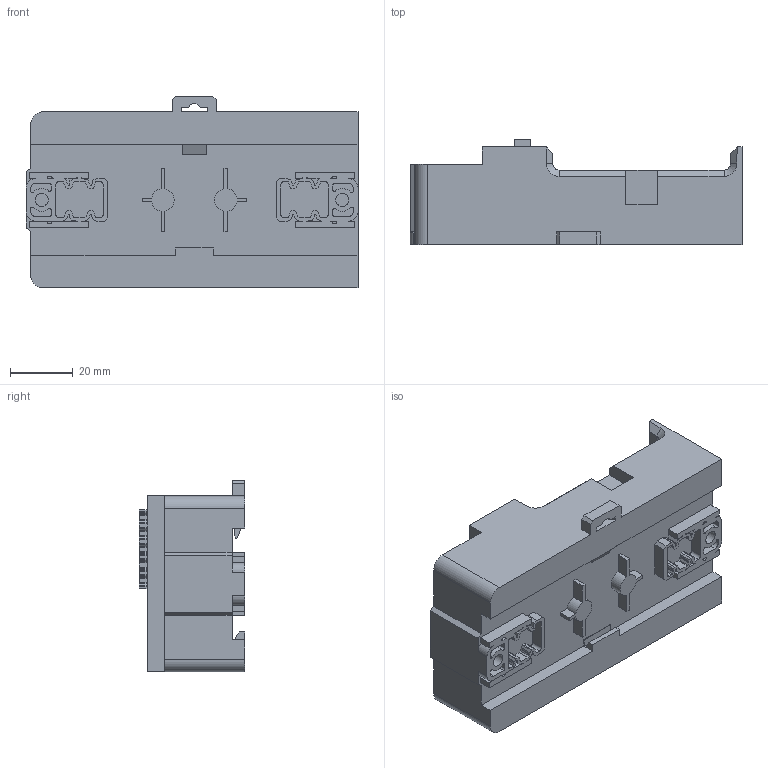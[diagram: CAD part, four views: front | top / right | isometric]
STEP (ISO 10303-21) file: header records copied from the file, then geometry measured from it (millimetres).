
FILE_DESCRIPTION(/* description */ ('STEP AP203'),/* implementation_level */ '2;1');
FILE_NAME(/* name */ 'CL2-S1',/* time_stamp */ '2024-11-15T09:30:59+01:00',/* author */ ('License CC BY-ND 4.0'),/* organization */ ('CADENAS'),/* preprocessor_version */ 'ST-DEVELOPER v19.3',/* originating_system */ 'PARTsolutions',/* authorisation */ ' ');
FILE_SCHEMA (('CONFIG_CONTROL_DESIGN'));
Length unit declared in the file: millimetre
Products named in the file (1): CL2-S1
Bounding box: 105.5 x 33.45 x 61 mm (x, y, z)
Volume: 137505.5 mm3; surface area: 24865.8 mm2
Topology: 1 solids, 1 shells, 707 faces, 1997 edges, 1324 vertices
Faces by surface type: plane 537, cylinder 166, cone 3, bspline 1
Full cylindrical faces by diameter (mm): 2.5 x2, 4.2 x2
Entity records: 22681 total; most frequent: CARTESIAN_POINT 4042, ORIENTED_EDGE 3978, DIRECTION 3733, EDGE_CURVE 1989, LINE 1651, VECTOR 1651, VERTEX_POINT 1320, AXIS2_PLACEMENT_3D 1041
